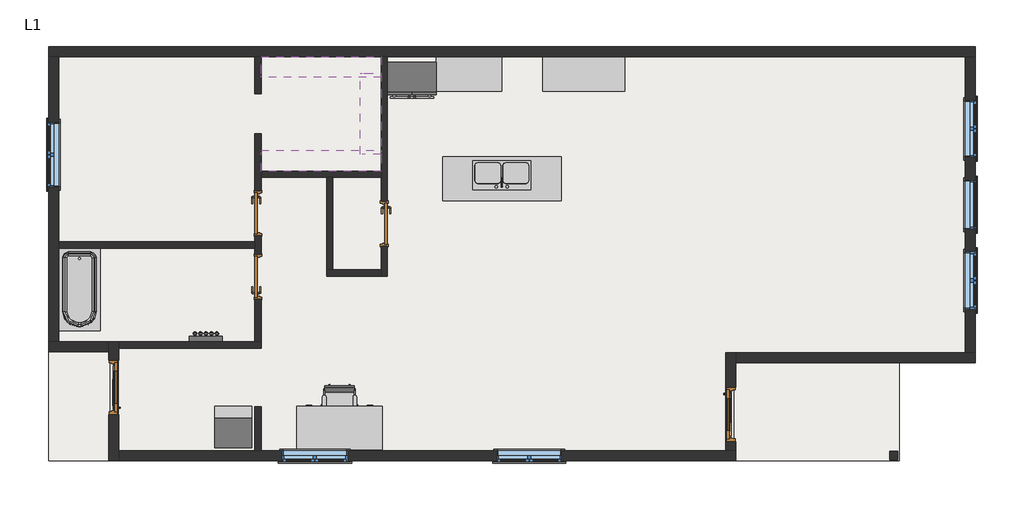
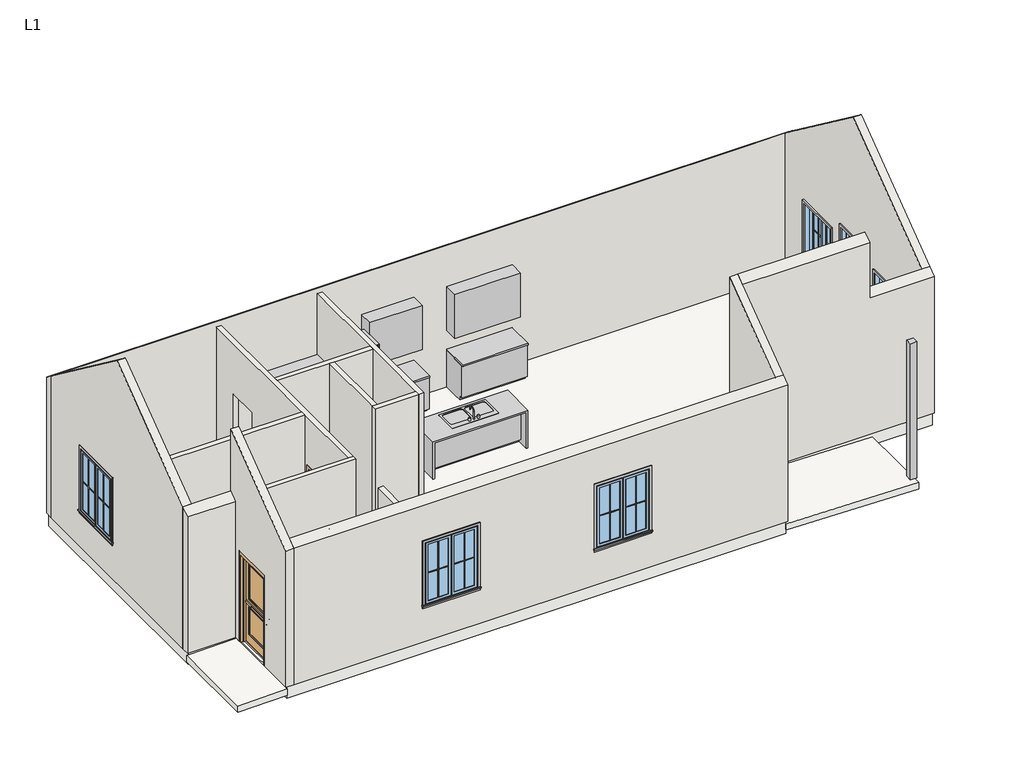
# One storey, incomplete: 28 proxies, 16 walls, 6 windows, 5 doors, 5 furniture elements, 3 slabs, 2 flow terminals, 1 column, 1 light fixture.
"""IFC4 building model written with IfcOpenShell, lengths in millimetres."""

from ifc_helpers import new_model, si_unit, frame, origin, origin_with_axes, place, context, project, spatial, polyline, outline, extrude, faceted_brep, transform, mapped, element, save
from components import proxy_39d06be3, proxy_0dac56ba, m_muntin_pattern_2x2_m_muntin_pattern_2x2_eb2ebf6d, m_muntin_pattern_2x2_m_muntin_pattern_2x2_a591b470, m_muntin_pattern_2x2_m_muntin_pattern_2x2_d4676b39, m_muntin_pattern_2x2_m_muntin_pattern_2x2_dce6eb8c, m_muntin_pattern_2x2_m_muntin_pattern_2x2_65db4d50, m_refrigerator_french_door_900mm_85fdf866, m_trim_window_exterior_flat_with_sill_96d7571b, m_trim_window_exterior_flat_with_sill_a970d7bf, m_trim_window_exterior_flat_with_sill_09d1e46a, m_trim_window_interior_flat_picture_frame_ac477dd0, m_trim_window_interior_flat_picture_frame_5bf35ee4, m_trim_window_interior_flat_picture_frame_313add5a, proxy_5ec56aa7, m_rectangular_column_150_x_150mm_8d2a82a3, m_door_exterior_single_two_lite_900_x_2100mm_26a130b0, m_door_passage_single_flush_750_x_2100mm_117db9f4, m_door_passage_single_flush_750_x_2100mm_a396414b, m_sink_kitchen_double_1065_mmx535_mm_private_a90f4076, m_tub_rectangular_3d_m_tub_rectangular_3d_5c80b43e, furniture_692216f6, furniture_e14fe356, furniture_18aa629a, m_chair_task_arms_m_chair_task_arms_bb362225, m_desk_1525_x_762mm_34485ced, standard_89f9745c, m_window_casement_double_1050_x_1350mm_baccf237, m_window_casement_double_1200_x_1500mm_974e59ab, m_window_fixed_900_x_1650mm_c6421b1e

model = new_model("IFC4")

# Units and contexts
model_context = context("Model", 3, world=origin())
ifc_project = project(units=[si_unit("LENGTHUNIT", "METRE", prefix="MILLI")], contexts=[model_context])

# Site, building, storey
site = spatial("IfcSite", under=ifc_project)
building = spatial("IfcBuilding", under=site)
storey = spatial("IfcBuildingStorey", under=building, Name="L1", Elevation=0.0)

# Proxies
placement = place(None, origin())
proxy_shape = proxy_39d06be3(model_context)
element("IfcBuildingElementProxy", 1, Name="Closet Shelf and Pole : 15\" Deep", ObjectType="Closet Shelf and Pole : 15\" Deep", at=placement, inside=storey, context=model_context, shape_type="MappedRepresentation", body=[
    mapped(proxy_shape, transform((-2941.5777761, 3663.8910467, 0.0), x_axis=(1.0, 0.0, 0.0), y_axis=(0.0, 1.0, 0.0), z_axis=(0.0, 0.0, 1.0))),
])
element("IfcBuildingElementProxy", 2, Name="Closet Shelf and Pole : 15\" Deep", ObjectType="Closet Shelf and Pole : 15\" Deep", at=placement, inside=storey, context=model_context, shape_type="MappedRepresentation", body=[
    mapped(proxy_shape, transform((-741.5777761, 1563.8910467, 0.0), x_axis=(-1.0, 0.0, 0.0), y_axis=(0.0, -1.0, 0.0), z_axis=(0.0, 0.0, 1.0))),
])
proxy_2_shape = proxy_0dac56ba(model_context)
element("IfcBuildingElementProxy", 3, Name="Closet Shelf and Pole : 15\" Deep", ObjectType="Closet Shelf and Pole : 15\" Deep", at=placement, inside=storey, context=model_context, shape_type="MappedRepresentation", body=[
    mapped(proxy_2_shape, transform((-741.5777761, 3359.0910467, 0.0), x_axis=(0.0, -1.0, 0.0), y_axis=(1.0, 0.0, 0.0), z_axis=(0.0, 0.0, 1.0))),
])
m_muntin_pattern_2x2_m_muntin_pattern_2x2_shape = m_muntin_pattern_2x2_m_muntin_pattern_2x2_eb2ebf6d(model_context)
element("IfcBuildingElementProxy", 4, Name="M_Muntin Pattern_2x2 : M_Muntin Pattern_2x2", ObjectType="M_Muntin Pattern_2x2 : M_Muntin Pattern_2x2", at=placement, inside=storey, context=model_context, shape_type="MappedRepresentation", body=[
    mapped(m_muntin_pattern_2x2_m_muntin_pattern_2x2_shape, transform((10147.8972239, 2599.8035467, 969.85), x_axis=(0.0, -1.0, 0.0), y_axis=(1.0, 0.0, 0.0), z_axis=(0.0, 0.0, 1.0))),
])
element("IfcBuildingElementProxy", 5, Name="M_Muntin Pattern_2x2 : M_Muntin Pattern_2x2", ObjectType="M_Muntin Pattern_2x2 : M_Muntin Pattern_2x2", at=placement, inside=storey, context=model_context, shape_type="MappedRepresentation", body=[
    mapped(m_muntin_pattern_2x2_m_muntin_pattern_2x2_shape, transform((10147.8972239, -182.1964533, 969.85), x_axis=(0.0, -1.0, 0.0), y_axis=(1.0, 0.0, 0.0), z_axis=(0.0, 0.0, 1.0))),
])
m_muntin_pattern_2x2_m_muntin_pattern_2x2_2_shape = m_muntin_pattern_2x2_m_muntin_pattern_2x2_a591b470(model_context)
element("IfcBuildingElementProxy", 6, Name="M_Muntin Pattern_2x2 : M_Muntin Pattern_2x2", ObjectType="M_Muntin Pattern_2x2 : M_Muntin Pattern_2x2", at=placement, inside=storey, context=model_context, shape_type="MappedRepresentation", body=[
    mapped(m_muntin_pattern_2x2_m_muntin_pattern_2x2_2_shape, transform((10147.8972239, 2077.9785467, 969.85), x_axis=(0.0, 1.0, 0.0), y_axis=(-1.0, 0.0, 0.0), z_axis=(0.0, 0.0, 1.0))),
])
element("IfcBuildingElementProxy", 7, Name="M_Muntin Pattern_2x2 : M_Muntin Pattern_2x2", ObjectType="M_Muntin Pattern_2x2 : M_Muntin Pattern_2x2", at=placement, inside=storey, context=model_context, shape_type="MappedRepresentation", body=[
    mapped(m_muntin_pattern_2x2_m_muntin_pattern_2x2_2_shape, transform((10147.8972239, -704.0214533, 969.85), x_axis=(0.0, 1.0, 0.0), y_axis=(-1.0, 0.0, 0.0), z_axis=(0.0, 0.0, 1.0))),
])
m_muntin_pattern_2x2_m_muntin_pattern_2x2_3_shape = m_muntin_pattern_2x2_m_muntin_pattern_2x2_d4676b39(model_context)
element("IfcBuildingElementProxy", 8, Name="M_Muntin Pattern_2x2 : M_Muntin Pattern_2x2", ObjectType="M_Muntin Pattern_2x2 : M_Muntin Pattern_2x2", at=placement, inside=storey, context=model_context, shape_type="MappedRepresentation", body=[
    mapped(m_muntin_pattern_2x2_m_muntin_pattern_2x2_3_shape, transform((2273.3347239, -3742.5839533, 969.85), x_axis=(-1.0, 0.0, 0.0), y_axis=(0.0, -1.0, 0.0), z_axis=(0.0, 0.0, 1.0))),
])
element("IfcBuildingElementProxy", 9, Name="M_Muntin Pattern_2x2 : M_Muntin Pattern_2x2", ObjectType="M_Muntin Pattern_2x2 : M_Muntin Pattern_2x2", at=placement, inside=storey, context=model_context, shape_type="MappedRepresentation", body=[
    mapped(m_muntin_pattern_2x2_m_muntin_pattern_2x2_3_shape, transform((-1658.6652761, -3742.5839533, 969.85), x_axis=(-1.0, 0.0, 0.0), y_axis=(0.0, -1.0, 0.0), z_axis=(0.0, 0.0, 1.0))),
])
element("IfcBuildingElementProxy", 10, Name="M_Muntin Pattern_2x2 : M_Muntin Pattern_2x2", ObjectType="M_Muntin Pattern_2x2 : M_Muntin Pattern_2x2", at=placement, inside=storey, context=model_context, shape_type="MappedRepresentation", body=[
    mapped(m_muntin_pattern_2x2_m_muntin_pattern_2x2_3_shape, transform((-6830.0527761, 1565.4785467, 969.85), x_axis=(0.0, 1.0, 0.0), y_axis=(-1.0, 0.0, 0.0), z_axis=(0.0, 0.0, 1.0))),
])
m_muntin_pattern_2x2_m_muntin_pattern_2x2_4_shape = m_muntin_pattern_2x2_m_muntin_pattern_2x2_dce6eb8c(model_context)
element("IfcBuildingElementProxy", 11, Name="M_Muntin Pattern_2x2 : M_Muntin Pattern_2x2", ObjectType="M_Muntin Pattern_2x2 : M_Muntin Pattern_2x2", at=placement, inside=storey, context=model_context, shape_type="MappedRepresentation", body=[
    mapped(m_muntin_pattern_2x2_m_muntin_pattern_2x2_4_shape, transform((1676.5097239, -3742.5839533, 969.85), x_axis=(1.0, 0.0, 0.0), y_axis=(0.0, 1.0, 0.0), z_axis=(0.0, 0.0, 1.0))),
])
element("IfcBuildingElementProxy", 12, Name="M_Muntin Pattern_2x2 : M_Muntin Pattern_2x2", ObjectType="M_Muntin Pattern_2x2 : M_Muntin Pattern_2x2", at=placement, inside=storey, context=model_context, shape_type="MappedRepresentation", body=[
    mapped(m_muntin_pattern_2x2_m_muntin_pattern_2x2_4_shape, transform((-2255.4902761, -3742.5839533, 969.85), x_axis=(1.0, 0.0, 0.0), y_axis=(0.0, 1.0, 0.0), z_axis=(0.0, 0.0, 1.0))),
])
element("IfcBuildingElementProxy", 13, Name="M_Muntin Pattern_2x2 : M_Muntin Pattern_2x2", ObjectType="M_Muntin Pattern_2x2 : M_Muntin Pattern_2x2", at=placement, inside=storey, context=model_context, shape_type="MappedRepresentation", body=[
    mapped(m_muntin_pattern_2x2_m_muntin_pattern_2x2_4_shape, transform((-6830.0527761, 2162.3035467, 969.85), x_axis=(0.0, -1.0, 0.0), y_axis=(1.0, 0.0, 0.0), z_axis=(0.0, 0.0, 1.0))),
])
m_muntin_pattern_2x2_m_muntin_pattern_2x2_5_shape = m_muntin_pattern_2x2_m_muntin_pattern_2x2_65db4d50(model_context)
element("IfcBuildingElementProxy", 14, Name="M_Muntin Pattern_2x2 : M_Muntin Pattern_2x2", ObjectType="M_Muntin Pattern_2x2 : M_Muntin Pattern_2x2", at=placement, inside=storey, context=model_context, shape_type="MappedRepresentation", body=[
    mapped(m_muntin_pattern_2x2_m_muntin_pattern_2x2_5_shape, transform((10147.8972239, 947.8910467, 938.1), x_axis=(0.0, 1.0, 0.0), y_axis=(-1.0, 0.0, 0.0), z_axis=(0.0, 0.0, 1.0))),
])
m_refrigerator_french_door_900mm_shape = m_refrigerator_french_door_900mm_85fdf866(model_context)
element("IfcBuildingElementProxy", 15, Name="M_Refrigerator-French_Door : 900mm", ObjectType="M_Refrigerator-French_Door : 900mm", at=placement, inside=storey, context=model_context, shape_type="MappedRepresentation", body=[
    mapped(m_refrigerator_french_door_900mm_shape, transform((-177.5777761, 3663.8910467, 0.0), x_axis=(1.0, 0.0, 0.0), y_axis=(0.0, 1.0, 0.0), z_axis=(0.0, 0.0, 1.0))),
])
m_trim_window_exterior_flat_with_sill_shape = m_trim_window_exterior_flat_with_sill_96d7571b(model_context)
element("IfcBuildingElementProxy", 16, Name="M_Trim-Window-Exterior-Flat : with Sill", ObjectType="M_Trim-Window-Exterior-Flat : with Sill", at=placement, inside=storey, context=model_context, shape_type="MappedRepresentation", body=[
    mapped(m_trim_window_exterior_flat_with_sill_shape, transform((10157.4222239, 2338.8910467, 2250.0), x_axis=(0.0, 1.0, 0.0), y_axis=(0.0, 0.0, 1.0), z_axis=(1.0, 0.0, 0.0))),
])
element("IfcBuildingElementProxy", 17, Name="M_Trim-Window-Exterior-Flat : with Sill", ObjectType="M_Trim-Window-Exterior-Flat : with Sill", at=placement, inside=storey, context=model_context, shape_type="MappedRepresentation", body=[
    mapped(m_trim_window_exterior_flat_with_sill_shape, transform((10157.4222239, -443.1089533, 2250.0), x_axis=(0.0, 1.0, 0.0), y_axis=(0.0, 0.0, 1.0), z_axis=(1.0, 0.0, 0.0))),
])
m_trim_window_exterior_flat_with_sill_2_shape = m_trim_window_exterior_flat_with_sill_a970d7bf(model_context)
element("IfcBuildingElementProxy", 18, Name="M_Trim-Window-Exterior-Flat : with Sill", ObjectType="M_Trim-Window-Exterior-Flat : with Sill", at=placement, inside=storey, context=model_context, shape_type="MappedRepresentation", body=[
    mapped(m_trim_window_exterior_flat_with_sill_2_shape, transform((1974.9222239, -3752.1089533, 2400.0), x_axis=(1.0, 0.0, 0.0), y_axis=(0.0, 0.0, 1.0), z_axis=(0.0, -1.0, 0.0))),
])
element("IfcBuildingElementProxy", 19, Name="M_Trim-Window-Exterior-Flat : with Sill", ObjectType="M_Trim-Window-Exterior-Flat : with Sill", at=placement, inside=storey, context=model_context, shape_type="MappedRepresentation", body=[
    mapped(m_trim_window_exterior_flat_with_sill_2_shape, transform((-1957.0777761, -3752.1089533, 2400.0), x_axis=(1.0, 0.0, 0.0), y_axis=(0.0, 0.0, 1.0), z_axis=(0.0, -1.0, 0.0))),
])
element("IfcBuildingElementProxy", 20, Name="M_Trim-Window-Exterior-Flat : with Sill", ObjectType="M_Trim-Window-Exterior-Flat : with Sill", at=placement, inside=storey, context=model_context, shape_type="MappedRepresentation", body=[
    mapped(m_trim_window_exterior_flat_with_sill_2_shape, transform((-6839.5777761, 1863.8910467, 2400.0), x_axis=(0.0, -1.0, 0.0), y_axis=(0.0, 0.0, 1.0), z_axis=(-1.0, 0.0, 0.0))),
])
m_trim_window_exterior_flat_with_sill_3_shape = m_trim_window_exterior_flat_with_sill_09d1e46a(model_context)
element("IfcBuildingElementProxy", 21, Name="M_Trim-Window-Exterior-Flat : with Sill", ObjectType="M_Trim-Window-Exterior-Flat : with Sill", at=placement, inside=storey, context=model_context, shape_type="MappedRepresentation", body=[
    mapped(m_trim_window_exterior_flat_with_sill_3_shape, transform((10157.4222239, 947.8910467, 2550.0), x_axis=(0.0, 1.0, 0.0), y_axis=(0.0, 0.0, 1.0), z_axis=(1.0, 0.0, 0.0))),
])
m_trim_window_interior_flat_picture_frame_shape = m_trim_window_interior_flat_picture_frame_ac477dd0(model_context)
element("IfcBuildingElementProxy", 22, Name="M_Trim-Window-Interior-Flat : Picture Frame", ObjectType="M_Trim-Window-Interior-Flat : Picture Frame", at=placement, inside=storey, context=model_context, shape_type="MappedRepresentation", body=[
    mapped(m_trim_window_interior_flat_picture_frame_shape, transform((9973.4222239, 2338.8910467, 2250.0), x_axis=(0.0, -1.0, 0.0), y_axis=(0.0, 0.0, 1.0), z_axis=(-1.0, 0.0, 0.0))),
])
element("IfcBuildingElementProxy", 23, Name="M_Trim-Window-Interior-Flat : Picture Frame", ObjectType="M_Trim-Window-Interior-Flat : Picture Frame", at=placement, inside=storey, context=model_context, shape_type="MappedRepresentation", body=[
    mapped(m_trim_window_interior_flat_picture_frame_shape, transform((9973.4222239, -443.1089533, 2250.0), x_axis=(0.0, -1.0, 0.0), y_axis=(0.0, 0.0, 1.0), z_axis=(-1.0, 0.0, 0.0))),
])
m_trim_window_interior_flat_picture_frame_2_shape = m_trim_window_interior_flat_picture_frame_5bf35ee4(model_context)
element("IfcBuildingElementProxy", 24, Name="M_Trim-Window-Interior-Flat : Picture Frame", ObjectType="M_Trim-Window-Interior-Flat : Picture Frame", at=placement, inside=storey, context=model_context, shape_type="MappedRepresentation", body=[
    mapped(m_trim_window_interior_flat_picture_frame_2_shape, transform((1974.9222239, -3568.1089533, 2400.0), x_axis=(-1.0, 0.0, 0.0), y_axis=(0.0, 0.0, 1.0), z_axis=(0.0, 1.0, 0.0))),
])
element("IfcBuildingElementProxy", 25, Name="M_Trim-Window-Interior-Flat : Picture Frame", ObjectType="M_Trim-Window-Interior-Flat : Picture Frame", at=placement, inside=storey, context=model_context, shape_type="MappedRepresentation", body=[
    mapped(m_trim_window_interior_flat_picture_frame_2_shape, transform((-1957.0777761, -3568.1089533, 2400.0), x_axis=(-1.0, 0.0, 0.0), y_axis=(0.0, 0.0, 1.0), z_axis=(0.0, 1.0, 0.0))),
])
element("IfcBuildingElementProxy", 26, Name="M_Trim-Window-Interior-Flat : Picture Frame", ObjectType="M_Trim-Window-Interior-Flat : Picture Frame", at=placement, inside=storey, context=model_context, shape_type="MappedRepresentation", body=[
    mapped(m_trim_window_interior_flat_picture_frame_2_shape, transform((-6655.5777761, 1863.8910467, 2400.0), x_axis=(0.0, 1.0, 0.0), y_axis=(0.0, 0.0, 1.0), z_axis=(1.0, 0.0, 0.0))),
])
m_trim_window_interior_flat_picture_frame_3_shape = m_trim_window_interior_flat_picture_frame_313add5a(model_context)
element("IfcBuildingElementProxy", 27, Name="M_Trim-Window-Interior-Flat : Picture Frame", ObjectType="M_Trim-Window-Interior-Flat : Picture Frame", at=placement, inside=storey, context=model_context, shape_type="MappedRepresentation", body=[
    mapped(m_trim_window_interior_flat_picture_frame_3_shape, transform((9973.4222239, 947.8910467, 2550.0), x_axis=(0.0, -1.0, 0.0), y_axis=(0.0, 0.0, 1.0), z_axis=(-1.0, 0.0, 0.0))),
])
proxy_3_shape = proxy_5ec56aa7(model_context)
element("IfcBuildingElementProxy", 28, Name="Washer-Dryer-Stack : 27\" x 30\"", ObjectType="Washer-Dryer-Stack : 27\" x 30\"", at=placement, inside=storey, context=model_context, shape_type="MappedRepresentation", body=[
    mapped(proxy_3_shape, transform((-3454.1777761, -3127.1089533, 0.0), x_axis=(-1.0, 0.0, 0.0), y_axis=(0.0, -1.0, 0.0), z_axis=(0.0, 0.0, 1.0))),
])

# Column
m_rectangular_column_150_x_150mm_shape = m_rectangular_column_150_x_150mm_8d2a82a3(model_context)
element("IfcColumn", 29, ObjectType="M_Rectangular Column : 150 x 150mm", at=placement, inside=storey, context=model_context, shape_type="MappedRepresentation", body=[
    mapped(m_rectangular_column_150_x_150mm_shape, transform((8658.4222239, -3653.1089533, 0.0), x_axis=(1.0, 0.0, 0.0), y_axis=(0.0, 1.0, 0.0), z_axis=(0.0, 0.0, 1.0))),
])

# Doors
m_door_exterior_single_two_lite_900_x_2100mm_shape = m_door_exterior_single_two_lite_900_x_2100mm_26a130b0(model_context)
element("IfcDoor", 30, ObjectType="M_Door-Exterior-Single-Two_Lite : 900 x 2100mm", at=placement, inside=storey, context=model_context, shape_type="MappedRepresentation", body=[
    mapped(m_door_exterior_single_two_lite_900_x_2100mm_shape, transform((-5655.4277761, -2402.1089533, 0.0), x_axis=(0.0, 1.0, 0.0), y_axis=(-1.0, 0.0, 0.0), z_axis=(0.0, 0.0, 1.0))),
])
element("IfcDoor", 31, ObjectType="M_Door-Exterior-Single-Two_Lite : 900 x 2100mm", at=placement, inside=storey, context=model_context, shape_type="MappedRepresentation", body=[
    mapped(m_door_exterior_single_two_lite_900_x_2100mm_shape, transform((5673.2722239, -2899.0589533, 0.0), x_axis=(0.0, -1.0, 0.0), y_axis=(1.0, 0.0, 0.0), z_axis=(0.0, 0.0, 1.0))),
])
m_door_passage_single_flush_750_x_2100mm_shape = m_door_passage_single_flush_750_x_2100mm_117db9f4(model_context)
element("IfcDoor", 32, ObjectType="M_Door-Passage-Single-Flush : 750 x 2100mm", at=placement, inside=storey, context=model_context, shape_type="MappedRepresentation", body=[
    mapped(m_door_passage_single_flush_750_x_2100mm_shape, transform((-2992.2277761, -375.1089533, 0.0), x_axis=(0.0, 1.0, 0.0), y_axis=(-1.0, 0.0, 0.0), z_axis=(0.0, 0.0, 1.0))),
])
element("IfcDoor", 33, ObjectType="M_Door-Passage-Single-Flush : 750 x 2100mm", at=placement, inside=storey, context=model_context, shape_type="MappedRepresentation", body=[
    mapped(m_door_passage_single_flush_750_x_2100mm_shape, transform((-690.9277761, 599.8910467, 0.0), x_axis=(0.0, -1.0, 0.0), y_axis=(1.0, 0.0, 0.0), z_axis=(0.0, 0.0, 1.0))),
])
m_door_passage_single_flush_750_x_2100mm_2_shape = m_door_passage_single_flush_750_x_2100mm_a396414b(model_context)
element("IfcDoor", 34, ObjectType="M_Door-Passage-Single-Flush : 750 x 2100mm", at=placement, inside=storey, context=model_context, shape_type="MappedRepresentation", body=[
    mapped(m_door_passage_single_flush_750_x_2100mm_2_shape, transform((-2992.2277761, 788.8910467, 0.0), x_axis=(0.0, -1.0, 0.0), y_axis=(1.0, 0.0, 0.0), z_axis=(0.0, 0.0, 1.0))),
])

# Flow terminals
m_sink_kitchen_double_1065_mmx535_mm_private_shape = m_sink_kitchen_double_1065_mmx535_mm_private_a90f4076(model_context)
element("IfcFlowTerminal", 35, ObjectType="M_Sink - Kitchen - Double : 1065 mmx535 mm - Private", at=placement, inside=storey, context=model_context, shape_type="MappedRepresentation", body=[
    mapped(m_sink_kitchen_double_1065_mmx535_mm_private_shape, transform((1472.4222239, 1221.1233328, 914.4), x_axis=(-1.0, 0.0, 0.0), y_axis=(0.0, -1.0, 0.0), z_axis=(0.0, 0.0, 1.0))),
])
m_tub_rectangular_3d_m_tub_rectangular_3d_shape = m_tub_rectangular_3d_m_tub_rectangular_3d_5c80b43e(model_context)
element("IfcFlowTerminal", 36, ObjectType="M_Tub-Rectangular-3D : M_Tub-Rectangular-3D", at=placement, inside=storey, context=model_context, shape_type="MappedRepresentation", body=[
    mapped(m_tub_rectangular_3d_m_tub_rectangular_3d_shape, transform((-6747.5777761, -953.711922, 0.0), x_axis=(0.0, -1.0, 0.0), y_axis=(1.0, 0.0, 0.0), z_axis=(0.0, 0.0, 1.0))),
])

# Furniture
furniture_shape = furniture_692216f6(model_context)
element("IfcFurniture", 37, ObjectType="Casework Schematic - Base and Upper : Casework Schematic", at=placement, inside=storey, context=model_context, shape_type="MappedRepresentation", body=[
    mapped(furniture_shape, transform((272.4222239, 3665.7233328, 0.0), x_axis=(1.0, 0.0, 0.0), y_axis=(0.0, 1.0, 0.0), z_axis=(0.0, 0.0, 1.0))),
])
furniture_2_shape = furniture_e14fe356(model_context)
element("IfcFurniture", 38, ObjectType="Casework Schematic - Base and Upper : Casework Schematic", at=placement, inside=storey, context=model_context, shape_type="MappedRepresentation", body=[
    mapped(furniture_2_shape, transform((2222.4222239, 3663.8910467, 0.0), x_axis=(1.0, 0.0, 0.0), y_axis=(0.0, 1.0, 0.0), z_axis=(0.0, 0.0, 1.0))),
])
furniture_3_shape = furniture_18aa629a(model_context)
element("IfcFurniture", 39, ObjectType="Casework Schematic - Base and Upper : Casework Schematic", at=placement, inside=storey, context=model_context, shape_type="MappedRepresentation", body=[
    mapped(furniture_3_shape, transform((422.4222239, 1830.7233328, 0.0), x_axis=(1.0, 0.0, 0.0), y_axis=(0.0, 1.0, 0.0), z_axis=(0.0, 0.0, 1.0))),
])
m_chair_task_arms_m_chair_task_arms_shape = m_chair_task_arms_m_chair_task_arms_bb362225(model_context)
element("IfcFurniture", 40, ObjectType="M_Chair-Task (Arms) : M_Chair-Task (Arms)", at=placement, inside=storey, context=model_context, shape_type="MappedRepresentation", body=[
    mapped(m_chair_task_arms_m_chair_task_arms_shape, transform((-1363.0869564, -2622.5774075, 0.0), x_axis=(-1.0, 0.0, 0.0), y_axis=(0.0, -1.0, 0.0), z_axis=(0.0, 0.0, 1.0))),
])
m_desk_1525_x_762mm_shape = m_desk_1525_x_762mm_34485ced(model_context)
element("IfcFurniture", 41, ObjectType="M_Desk : 1525 x 762mm", at=placement, inside=storey, context=model_context, shape_type="MappedRepresentation", body=[
    mapped(m_desk_1525_x_762mm_shape, transform((-742.0777761, -2766.1089533, 0.0), x_axis=(-1.0, 0.0, 0.0), y_axis=(0.0, -1.0, 0.0), z_axis=(0.0, 0.0, 1.0))),
])

# Light fixture
standard_shape = standard_89f9745c(model_context)
element("IfcLightFixture", 42, ObjectType="M_Sconce Lamp - Cosmetic - LED : Standard", at=placement, inside=storey, context=model_context, shape_type="MappedRepresentation", body=[
    mapped(standard_shape, transform((-3955.5777761, -1568.1089533, 1200.0), x_axis=(-1.0, 0.0, 0.0), y_axis=(0.0, 0.0, 1.0), z_axis=(0.0, 1.0, 0.0))),
])

# Slabs
element("IfcSlab", 43, ObjectType="Concrete 150mm", at=placement, inside=storey, context=model_context, shape_type="SweptSolid", body=[
    extrude(outline(polyline([(-200.0329047, 5727.4222239), (-263.5337774, 8758.9222239), (-113.5008727, 8758.9222239), (-50.0, 5727.4222239), (-200.0329047, 5727.4222239)])), frame((0.0, -3752.1089533, 0.0), z_axis=(0.0, 1.0, 0.0), x_axis=(0.0, 0.0, 1.0)), (0.0, 0.0, 1.0), 1831.5),
])
element("IfcSlab", 44, ObjectType="Concrete 150mm", at=placement, inside=storey, context=model_context, shape_type="SweptSolid", body=[
    extrude(outline(polyline([(-223.7030304, -6839.5777761), (-200.0329047, -5709.5777761), (-50.0, -5709.5777761), (-73.6701257, -6839.5777761), (-223.7030304, -6839.5777761)])), frame((0.0, -3752.1089533, 0.0), z_axis=(0.0, 1.0, 0.0), x_axis=(0.0, 0.0, 1.0)), (0.0, 0.0, 1.0), 2031.5),
])
element("IfcSlab", 45, ObjectType="Generic 300mm", at=placement, inside=storey, context=model_context, shape_type="SweptSolid", body=[
    extrude(outline(polyline([(-6808.0777761, 3816.3910467), (10125.9222239, 3816.3910467), (10125.9222239, -1920.6089533), (5727.4222239, -1920.6089533), (5727.4222239, -3720.6089533), (-5709.5777761, -3720.6089533), (-5709.5777761, -1720.6089533), (-6808.0777761, -1720.6089533), (-6808.0777761, 3816.3910467)])), frame((0.0, 0.0, -300.0), z_axis=(0.0, 0.0, 1.0), x_axis=(1.0, 0.0, 0.0)), (0.0, 0.0, 1.0), 300.0),
])

# Walls
element("IfcWall", 46, ObjectType="Interior - 114mm Partition", at=placement, inside=storey, context=model_context, shape_type="Brep", body=[
    faceted_brep([(-5557.0777761, -1682.1089533, 0.0), (-2941.5777761, -1682.1089533, 0.0), (-2941.5777761, -1682.1089533, 3300.0), (-5557.0777761, -1682.1089533, 3300.0), (-5557.0777761, -1568.1089533, 0.0), (-5557.0777761, -1568.1089533, 3300.0), (-3055.5777761, -1568.1089533, 3300.0), (-2941.5777761, -1568.1089533, 3300.0), (-2941.5777761, -1568.1089533, 0.0), (-3055.5777761, -1568.1089533, 0.0)], [[[0, 1, 2, 3]], [[4, 5, 6, 7, 8, 9]], [[1, 0, 4, 9, 8]], [[3, 2, 7, 6, 5]], [[0, 3, 5, 4]], [[2, 1, 8, 7]]]),
])
element("IfcWall", 47, ObjectType="Interior - 114mm Partition", at=placement, inside=storey, context=model_context, shape_type="Brep", body=[
    faceted_brep([(-2941.5777761, 3663.8910467, 3300.0), (-2941.5777761, 1563.8910467, 3300.0), (-2941.5777761, 1449.8910467, 3300.0), (-2941.5777761, -1568.1089533, 3300.0), (-2941.5777761, -1568.1089533, 0.0), (-2941.5777761, -780.1089533, 0.0), (-2941.5777761, -780.1089533, 2130.0), (-2941.5777761, 29.8910467, 2130.0), (-2941.5777761, 29.8910467, 0.0), (-2941.5777761, 383.8910467, 0.0), (-2941.5777761, 383.8910467, 2130.0), (-2941.5777761, 1193.8910467, 2130.0), (-2941.5777761, 1193.8910467, 0.0), (-2941.5777761, 1449.8910467, 0.0), (-2941.5777761, 1563.8910467, 0.0), (-2941.5777761, 2245.2437811, 0.0), (-2941.5777761, 2245.2437811, 2093.6148438), (-2941.5777761, 2982.5383123, 2093.6148438), (-2941.5777761, 2982.5383123, 0.0), (-2941.5777761, 3663.8910467, 0.0), (-3055.5777761, -1568.1089533, 3300.0), (-3055.5777761, 149.8910467, 3300.0), (-3055.5777761, 263.8910467, 3300.0), (-3055.5777761, 3663.8910467, 3300.0), (-3055.5777761, 3663.8910467, 0.0), (-3055.5777761, 2982.5383123, 0.0), (-3055.5777761, 2982.5383123, 2093.6148438), (-3055.5777761, 2245.2437811, 2093.6148438), (-3055.5777761, 2245.2437811, 0.0), (-3055.5777761, 1193.8910467, 0.0), (-3055.5777761, 1193.8910467, 2130.0), (-3055.5777761, 383.8910467, 2130.0), (-3055.5777761, 383.8910467, 0.0), (-3055.5777761, 263.8910467, 0.0), (-3055.5777761, 149.8910467, 0.0), (-3055.5777761, 29.8910467, 0.0), (-3055.5777761, 29.8910467, 2130.0), (-3055.5777761, -780.1089533, 2130.0), (-3055.5777761, -780.1089533, 0.0), (-3055.5777761, -1568.1089533, 0.0)], [[[0, 1, 2, 3, 4, 5, 6, 7, 8, 9, 10, 11, 12, 13, 14, 15, 16, 17, 18, 19]], [[20, 21, 22, 23, 24, 25, 26, 27, 28, 29, 30, 31, 32, 33, 34, 35, 36, 37, 38, 39]], [[4, 39, 38, 5]], [[24, 19, 18, 25]], [[8, 35, 34, 33, 32, 9]], [[12, 29, 28, 15, 14, 13]], [[3, 2, 1, 0, 23, 22, 21, 20]], [[4, 3, 20, 39]], [[0, 19, 24, 23]], [[7, 36, 35, 8]], [[36, 7, 6, 37]], [[37, 6, 5, 38]], [[31, 10, 9, 32]], [[10, 31, 30, 11]], [[11, 30, 29, 12]], [[27, 16, 15, 28]], [[16, 27, 26, 17]], [[17, 26, 25, 18]]]),
])
element("IfcWall", 48, ObjectType="Interior - 114mm Partition", at=placement, inside=storey, context=model_context, shape_type="SweptSolid", body=[
    extrude(outline(polyline([(-3055.5777761, 149.8910467), (-6655.5777761, 149.8910467), (-6655.5777761, 263.8910467), (-3055.5777761, 263.8910467), (-3055.5777761, 149.8910467)])), origin_with_axes(), (0.0, 0.0, 1.0), 3300.0),
])
element("IfcWall", 49, ObjectType="Interior - 114mm Partition", at=placement, inside=storey, context=model_context, shape_type="Brep", body=[
    faceted_brep([(-741.5777761, -364.1089533, 3300.0), (-741.5777761, -250.1089533, 3300.0), (-741.5777761, 1449.8910467, 3300.0), (-741.5777761, 1563.8910467, 3300.0), (-741.5777761, 3663.8910467, 3300.0), (-741.5777761, 3663.8910467, 0.0), (-741.5777761, 1563.8910467, 0.0), (-741.5777761, 1449.8910467, 0.0), (-741.5777761, 1004.8910467, 0.0), (-741.5777761, 1004.8910467, 2130.0), (-741.5777761, 194.8910467, 2130.0), (-741.5777761, 194.8910467, 0.0), (-741.5777761, -250.1089533, 0.0), (-741.5777761, -364.1089533, 0.0), (-627.5777761, 3663.8910467, 3300.0), (-627.5777761, -364.1089533, 3300.0), (-627.5777761, -364.1089533, 0.0), (-627.5777761, 194.8910467, 0.0), (-627.5777761, 194.8910467, 2130.0), (-627.5777761, 1004.8910467, 2130.0), (-627.5777761, 1004.8910467, 0.0), (-627.5777761, 3663.8910467, 0.0)], [[[0, 1, 2, 3, 4, 5, 6, 7, 8, 9, 10, 11, 12, 13]], [[14, 15, 16, 17, 18, 19, 20, 21]], [[5, 21, 20, 8, 7, 6]], [[16, 13, 12, 11, 17]], [[4, 3, 2, 1, 0, 15, 14]], [[5, 4, 14, 21]], [[0, 13, 16, 15]], [[10, 18, 17, 11]], [[18, 10, 9, 19]], [[19, 9, 8, 20]]]),
])
element("IfcWall", 50, ObjectType="Interior - 114mm Partition", at=placement, inside=storey, context=model_context, shape_type="Brep", body=[
    faceted_brep([(-741.5777761, -250.1089533, 0.0), (-1627.5777761, -250.1089533, 0.0), (-1741.5777761, -250.1089533, 0.0), (-1741.5777761, -250.1089533, 3300.0), (-1627.5777761, -250.1089533, 3300.0), (-741.5777761, -250.1089533, 3300.0), (-741.5777761, -364.1089533, 0.0), (-741.5777761, -364.1089533, 3300.0), (-1741.5777761, -364.1089533, 3300.0), (-1741.5777761, -364.1089533, 0.0)], [[[0, 1, 2, 3, 4, 5]], [[6, 7, 8, 9]], [[2, 1, 0, 6, 9]], [[5, 4, 3, 8, 7]], [[0, 5, 7, 6]], [[3, 2, 9, 8]]]),
])
element("IfcWall", 51, ObjectType="Interior - 114mm Partition", at=placement, inside=storey, context=model_context, shape_type="SweptSolid", body=[
    extrude(outline(polyline([(-1627.5777761, 1449.8910467), (-1627.5777761, -250.1089533), (-1741.5777761, -250.1089533), (-1741.5777761, 1449.8910467), (-1627.5777761, 1449.8910467)])), origin_with_axes(), (0.0, 0.0, 1.0), 3300.0),
])
element("IfcWall", 52, ObjectType="Interior - 114mm Partition", at=placement, inside=storey, context=model_context, shape_type="Brep", body=[
    faceted_brep([(-2941.5777761, 1449.8910467, 0.0), (-1741.5777761, 1449.8910467, 0.0), (-1627.5777761, 1449.8910467, 0.0), (-741.5777761, 1449.8910467, 0.0), (-741.5777761, 1449.8910467, 3300.0), (-1627.5777761, 1449.8910467, 3300.0), (-1741.5777761, 1449.8910467, 3300.0), (-2941.5777761, 1449.8910467, 3300.0), (-2941.5777761, 1563.8910467, 0.0), (-2941.5777761, 1563.8910467, 3300.0), (-741.5777761, 1563.8910467, 3300.0), (-741.5777761, 1563.8910467, 0.0)], [[[0, 1, 2, 3, 4, 5, 6, 7]], [[8, 9, 10, 11]], [[3, 2, 1, 0, 8, 11]], [[7, 6, 5, 4, 10, 9]], [[0, 7, 9, 8]], [[4, 3, 11, 10]]]),
])
element("IfcWall", 53, ObjectType="Interior - 114mm Partition", at=placement, inside=storey, context=model_context, shape_type="SweptSolid", body=[
    extrude(outline(polyline([(-2943.0777761, -2760.1089533), (-2943.0777761, -3568.1089533), (-3057.0777761, -3568.1089533), (-3057.0777761, -2760.1089533), (-2943.0777761, -2760.1089533)])), origin_with_axes(), (0.0, 0.0, 1.0), 3300.0),
])
element("IfcWall", 54, ObjectType="M_Exterior - Wood Siding on Wood Stud", at=placement, inside=storey, context=model_context, shape_type="Brep", body=[
    faceted_brep([(-6839.5777761, 3663.8910467, 0.0), (-6655.5777761, 3663.8910467, 0.0), (-3055.5777761, 3663.8910467, 0.0), (-2941.5777761, 3663.8910467, 0.0), (-741.5777761, 3663.8910467, 0.0), (-627.5777761, 3663.8910467, 0.0), (9973.4222239, 3663.8910467, 0.0), (10157.4222239, 3663.8910467, 0.0), (10157.4222239, 3663.8910467, 3438.0), (9973.4222239, 3663.8910467, 3438.0), (8673.4222239, 3663.8910467, 3438.0), (-5649.0777761, 3663.8910467, 3438.0), (-6655.5777761, 3663.8910467, 3438.0), (-6839.5777761, 3663.8910467, 3438.0), (-6839.5777761, 3847.8910467, 0.0), (-6839.5777761, 3847.8910467, 3300.0), (-5649.0777761, 3847.8910467, 3300.0), (8673.4222239, 3847.8910467, 3300.0), (10157.4222239, 3847.8910467, 3300.0), (10157.4222239, 3847.8910467, 0.0)], [[[0, 1, 2, 3, 4, 5, 6, 7, 8, 9, 10, 11, 12, 13]], [[14, 15, 16, 17, 18, 19]], [[7, 6, 5, 4, 3, 2, 1, 0, 14, 19]], [[0, 13, 15, 14]], [[8, 7, 19, 18]], [[8, 18, 17, 10, 9]], [[11, 10, 17, 16]], [[11, 16, 15, 13, 12]]]),
])
element("IfcWall", 55, ObjectType="M_Exterior - Wood Siding on Wood Stud", at=placement, inside=storey, context=model_context, shape_type="Brep", body=[
    faceted_brep([(-5557.0777761, -3752.1089533, 3300.0), (-5557.0777761, -3752.1089533, 0.0), (-5557.0777761, -3568.1089533, 0.0), (-5557.0777761, -2902.1089533, 0.0), (-5557.0777761, -2902.1089533, 2200.0), (-5557.0777761, -1902.1089533, 2200.0), (-5557.0777761, -1902.1089533, 0.0), (-5557.0777761, -1682.1089533, 0.0), (-5557.0777761, -1568.1089533, 0.0), (-5557.0777761, -1568.1089533, 3300.0), (-5557.0777761, -1568.1089533, 4938.0), (-5557.0777761, -3568.1089533, 3438.0), (-5741.0777761, -3752.1089533, 0.0), (-5741.0777761, -3752.1089533, 3300.0), (-5741.0777761, -1568.1089533, 4938.0), (-5741.0777761, -1568.1089533, 3438.0), (-5741.0777761, -1568.1089533, 0.0), (-5741.0777761, -1752.1089533, 0.0), (-5741.0777761, -1902.1089533, 0.0), (-5741.0777761, -1902.1089533, 2200.0), (-5741.0777761, -2902.1089533, 2200.0), (-5741.0777761, -2902.1089533, 0.0)], [[[0, 1, 2, 3, 4, 5, 6, 7, 8, 9, 10, 11]], [[12, 13, 14, 15, 16, 17, 18, 19, 20, 21]], [[1, 12, 21, 3, 2]], [[16, 8, 7, 6, 18, 17]], [[1, 0, 13, 12]], [[5, 19, 18, 6]], [[19, 5, 4, 20]], [[20, 4, 3, 21]], [[0, 11, 10, 14, 13]], [[8, 16, 15, 14, 10, 9]]]),
])
element("IfcWall", 56, ObjectType="M_Exterior - Wood Siding on Wood Stud", at=placement, inside=storey, context=model_context, shape_type="Brep", body=[
    faceted_brep([(5758.9222239, -3568.1089533, 0.0), (5574.9222239, -3568.1089533, 0.0), (-2943.0777761, -3568.1089533, 0.0), (-3057.0777761, -3568.1089533, 0.0), (-5557.0777761, -3568.1089533, 0.0), (-5557.0777761, -3568.1089533, 3438.0), (5574.9222239, -3568.1089533, 3438.0), (5758.9222239, -3568.1089533, 3438.0), (1374.9222239, -3568.1089533, 2400.0), (1374.9222239, -3568.1089533, 900.0), (2574.9222239, -3568.1089533, 900.0), (2574.9222239, -3568.1089533, 2400.0), (-2557.0777761, -3568.1089533, 2400.0), (-2557.0777761, -3568.1089533, 900.0), (-1357.0777761, -3568.1089533, 900.0), (-1357.0777761, -3568.1089533, 2400.0), (5758.9222239, -3752.1089533, 0.0), (5758.9222239, -3752.1089533, 3300.0), (-5557.0777761, -3752.1089533, 3300.0), (-5557.0777761, -3752.1089533, 0.0), (1374.9222239, -3752.1089533, 2400.0), (2574.9222239, -3752.1089533, 2400.0), (2574.9222239, -3752.1089533, 900.0), (1374.9222239, -3752.1089533, 900.0), (-2557.0777761, -3752.1089533, 2400.0), (-1357.0777761, -3752.1089533, 2400.0), (-1357.0777761, -3752.1089533, 900.0), (-2557.0777761, -3752.1089533, 900.0)], [[[0, 1, 2, 3, 4, 5, 6, 7], [8, 9, 10, 11], [12, 13, 14, 15]], [[16, 17, 18, 19], [20, 21, 22, 23], [24, 25, 26, 27]], [[4, 3, 2, 1, 0, 16, 19]], [[0, 7, 17, 16]], [[5, 4, 19, 18]], [[9, 8, 20, 23]], [[10, 9, 23, 22]], [[11, 10, 22, 21]], [[8, 11, 21, 20]], [[13, 12, 24, 27]], [[14, 13, 27, 26]], [[15, 14, 26, 25]], [[12, 15, 25, 24]], [[7, 6, 5, 18, 17]]]),
])
element("IfcWall", 57, ObjectType="M_Exterior - Wood Siding on Wood Stud", at=placement, inside=storey, context=model_context, shape_type="Brep", body=[
    faceted_brep([(5574.9222239, -3568.1089533, 0.0), (5574.9222239, -3568.1089533, 3438.0), (5574.9222239, -1768.1089533, 4788.0), (5574.9222239, -1768.1089533, 0.0), (5574.9222239, -2399.0589533, 0.0), (5574.9222239, -2399.0589533, 2200.0), (5574.9222239, -3399.0589533, 2200.0), (5574.9222239, -3399.0589533, 0.0), (5758.9222239, -3568.1089533, 3438.0), (5758.9222239, -3568.1089533, 0.0), (5758.9222239, -3399.0589533, 0.0), (5758.9222239, -3399.0589533, 2200.0), (5758.9222239, -2399.0589533, 2200.0), (5758.9222239, -2399.0589533, 0.0), (5758.9222239, -1952.1089533, 0.0), (5758.9222239, -1768.1089533, 0.0), (5758.9222239, -1768.1089533, 4788.0), (5758.9222239, -1952.1089533, 4650.0)], [[[0, 1, 2, 3, 4, 5, 6, 7]], [[8, 9, 10, 11, 12, 13, 14, 15, 16, 17]], [[9, 0, 7, 10]], [[3, 15, 14, 13, 4]], [[1, 0, 9, 8]], [[3, 2, 16, 15]], [[6, 11, 10, 7]], [[11, 6, 5, 12]], [[12, 5, 4, 13]], [[2, 1, 8, 17, 16]]]),
])
element("IfcWall", 58, ObjectType="M_Exterior - Wood Siding on Wood Stud", at=placement, inside=storey, context=model_context, shape_type="Brep", body=[
    faceted_brep([(-5741.0777761, -1568.1089533, 3438.0), (-5741.0777761, -1568.1089533, 0.0), (-6655.5777761, -1568.1089533, 0.0), (-6839.5777761, -1568.1089533, 0.0), (-6839.5777761, -1568.1089533, 3438.0), (-6655.5777761, -1568.1089533, 3438.0), (-5741.0777761, -1752.1089533, 0.0), (-5741.0777761, -1752.1089533, 3300.0), (-6839.5777761, -1752.1089533, 3300.0), (-6839.5777761, -1752.1089533, 0.0)], [[[0, 1, 2, 3, 4, 5]], [[6, 7, 8, 9]], [[3, 2, 1, 6, 9]], [[4, 3, 9, 8]], [[0, 7, 6, 1]], [[0, 5, 4, 8, 7]]]),
])
element("IfcWall", 59, ObjectType="M_Exterior - Wood Siding on Wood Stud", at=placement, inside=storey, context=model_context, shape_type="Brep", body=[
    faceted_brep([(-6655.5777761, -1568.1089533, 0.0), (-6655.5777761, 149.8910467, 0.0), (-6655.5777761, 263.8910467, 0.0), (-6655.5777761, 3663.8910467, 0.0), (-6655.5777761, 3663.8910467, 3438.0), (-6655.5777761, 1047.8910467, 5400.0), (-6655.5777761, -1568.1089533, 3438.0), (-6655.5777761, 2463.8910467, 2400.0), (-6655.5777761, 2463.8910467, 900.0), (-6655.5777761, 1263.8910467, 900.0), (-6655.5777761, 1263.8910467, 2400.0), (-6839.5777761, -1568.1089533, 0.0), (-6839.5777761, -1568.1089533, 3438.0), (-6839.5777761, 1047.8910467, 5400.0), (-6839.5777761, 3663.8910467, 3438.0), (-6839.5777761, 3663.8910467, 0.0), (-6839.5777761, 2463.8910467, 2400.0), (-6839.5777761, 1263.8910467, 2400.0), (-6839.5777761, 1263.8910467, 900.0), (-6839.5777761, 2463.8910467, 900.0)], [[[0, 1, 2, 3, 4, 5, 6], [7, 8, 9, 10]], [[11, 12, 13, 14, 15], [16, 17, 18, 19]], [[3, 2, 1, 0, 11, 15]], [[0, 6, 12, 11]], [[4, 3, 15, 14]], [[8, 7, 16, 19]], [[9, 8, 19, 18]], [[10, 9, 18, 17]], [[7, 10, 17, 16]], [[6, 5, 13, 12]], [[5, 4, 14, 13]]]),
])
element("IfcWall", 60, ObjectType="M_Exterior - Wood Siding on Wood Stud", at=placement, inside=storey, context=model_context, shape_type="Brep", body=[
    faceted_brep([(5758.9222239, -1952.1089533, 0.0), (10157.4222239, -1952.1089533, 0.0), (10157.4222239, -1952.1089533, 3300.0), (8673.4222239, -1952.1089533, 3300.0), (8673.4222239, -1952.1089533, 4650.0), (5758.9222239, -1952.1089533, 4650.0), (5758.9222239, -1768.1089533, 0.0), (5758.9222239, -1768.1089533, 4788.0), (8673.4222239, -1768.1089533, 4788.0), (8673.4222239, -1768.1089533, 3438.0), (9973.4222239, -1768.1089533, 3438.0), (10157.4222239, -1768.1089533, 3438.0), (10157.4222239, -1768.1089533, 0.0), (9973.4222239, -1768.1089533, 0.0)], [[[0, 1, 2, 3, 4, 5]], [[6, 7, 8, 9, 10, 11, 12, 13]], [[1, 0, 6, 13, 12]], [[2, 1, 12, 11]], [[0, 5, 7, 6]], [[5, 4, 8, 7]], [[8, 4, 3, 9]], [[3, 2, 11, 10, 9]]]),
])
element("IfcWall", 61, ObjectType="M_Exterior - Wood Siding on Wood Stud", at=placement, inside=storey, context=model_context, shape_type="SweptSolid", body=[
    extrude(outline(polyline([(-1768.1089533, 0.0), (-1768.1089533, 3438.0), (947.8910467, 5475.0), (3663.8910467, 3438.0), (3663.8910467, 0.0), (-1768.1089533, 0.0)]), holes=[polyline([(1813.8910467, 2250.0), (1813.8910467, 900.0), (2863.8910467, 900.0), (2863.8910467, 2250.0), (1813.8910467, 2250.0)]), polyline([(-968.1089533, 2250.0), (-968.1089533, 900.0), (81.8910467, 900.0), (81.8910467, 2250.0), (-968.1089533, 2250.0)]), polyline([(497.8910467, 2550.0), (497.8910467, 900.0), (1397.8910467, 900.0), (1397.8910467, 2550.0), (497.8910467, 2550.0)])]), frame((9973.4222239, 0.0, 0.0), z_axis=(1.0, 0.0, 0.0), x_axis=(0.0, 1.0, 0.0)), (0.0, 0.0, 1.0), 184.0),
])

# Windows
m_window_casement_double_1050_x_1350mm_shape = m_window_casement_double_1050_x_1350mm_baccf237(model_context)
element("IfcWindow", 62, ObjectType="M_Window-Casement-Double : 1050 x 1350mm", at=placement, inside=storey, context=model_context, shape_type="MappedRepresentation", body=[
    mapped(m_window_casement_double_1050_x_1350mm_shape, transform((10065.4222239, 2338.8910467, 0.0), x_axis=(0.0, -1.0, 0.0), y_axis=(1.0, 0.0, 0.0), z_axis=(0.0, 0.0, 1.0))),
])
element("IfcWindow", 63, ObjectType="M_Window-Casement-Double : 1050 x 1350mm", at=placement, inside=storey, context=model_context, shape_type="MappedRepresentation", body=[
    mapped(m_window_casement_double_1050_x_1350mm_shape, transform((10065.4222239, -443.1089533, 0.0), x_axis=(0.0, -1.0, 0.0), y_axis=(1.0, 0.0, 0.0), z_axis=(0.0, 0.0, 1.0))),
])
m_window_casement_double_1200_x_1500mm_shape = m_window_casement_double_1200_x_1500mm_974e59ab(model_context)
element("IfcWindow", 64, ObjectType="M_Window-Casement-Double : 1200 x 1500mm", at=placement, inside=storey, context=model_context, shape_type="MappedRepresentation", body=[
    mapped(m_window_casement_double_1200_x_1500mm_shape, transform((1974.9222239, -3660.1089533, 0.0), x_axis=(-1.0, 0.0, 0.0), y_axis=(0.0, -1.0, 0.0), z_axis=(0.0, 0.0, 1.0))),
])
element("IfcWindow", 65, ObjectType="M_Window-Casement-Double : 1200 x 1500mm", at=placement, inside=storey, context=model_context, shape_type="MappedRepresentation", body=[
    mapped(m_window_casement_double_1200_x_1500mm_shape, transform((-1957.0777761, -3660.1089533, 0.0), x_axis=(-1.0, 0.0, 0.0), y_axis=(0.0, -1.0, 0.0), z_axis=(0.0, 0.0, 1.0))),
])
element("IfcWindow", 66, ObjectType="M_Window-Casement-Double : 1200 x 1500mm", at=placement, inside=storey, context=model_context, shape_type="MappedRepresentation", body=[
    mapped(m_window_casement_double_1200_x_1500mm_shape, transform((-6747.5777761, 1863.8910467, 0.0), x_axis=(0.0, 1.0, 0.0), y_axis=(-1.0, 0.0, 0.0), z_axis=(0.0, 0.0, 1.0))),
])
m_window_fixed_900_x_1650mm_shape = m_window_fixed_900_x_1650mm_c6421b1e(model_context)
element("IfcWindow", 67, ObjectType="M_Window-Fixed : 900 x 1650mm", at=placement, inside=storey, context=model_context, shape_type="MappedRepresentation", body=[
    mapped(m_window_fixed_900_x_1650mm_shape, transform((10065.4222239, 947.8910467, 0.0), x_axis=(0.0, -1.0, 0.0), y_axis=(1.0, 0.0, 0.0), z_axis=(0.0, 0.0, 1.0))),
])

save(model, "model.ifc")
